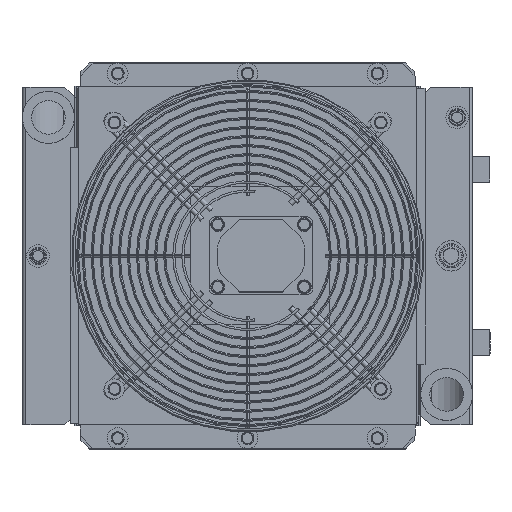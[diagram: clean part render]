
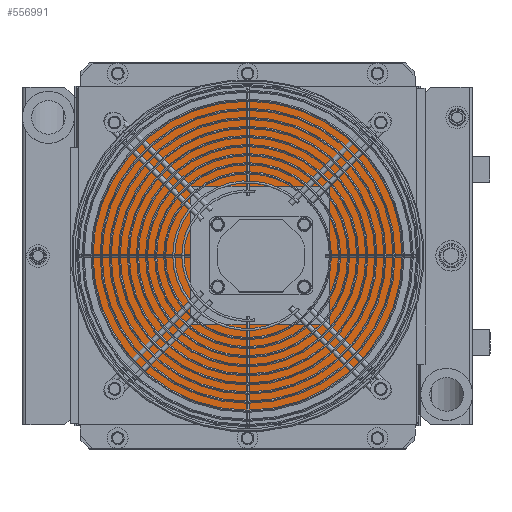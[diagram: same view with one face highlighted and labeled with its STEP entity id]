
A CAD part, top view. The second image highlights one B-rep face of the part: STEP entity #556991.
In plain terms, the highlighted planar face has unit normal (0, 0, 1).
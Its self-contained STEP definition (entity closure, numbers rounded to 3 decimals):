
#554661=CARTESIAN_POINT(' ',(194.247,385.89,47.));
#554662=VERTEX_POINT(' ',#554661);
#555016=CARTESIAN_POINT(' ',(-194.247,385.89,47.));
#555017=VERTEX_POINT(' ',#555016);
#555031=CARTESIAN_POINT(' ',(194.247,385.89,47.));
#555036=DIRECTION(' ',(-1.,0.,0.));
#555041=VECTOR(' ',#555036,1.);
#555046=LINE(' ',#555031,#555041);
#555051=EDGE_CURVE(' ',#554662,#555017,#555046,.T.);
#555186=CARTESIAN_POINT(' ',(194.247,385.89,47.));
#555191=DIRECTION(' ',(0.,-1.,0.));
#555196=VECTOR(' ',#555191,1.);
#555201=LINE(' ',#555186,#555196);
#555206=CARTESIAN_POINT(' ',(194.247,0.,47.));
#555207=VERTEX_POINT(' ',#555206);
#555211=EDGE_CURVE(' ',#554662,#555207,#555201,.T.);
#556776=CARTESIAN_POINT(' ',(-194.247,385.89,47.));
#556781=DIRECTION(' ',(0.,-1.,0.));
#556786=VECTOR(' ',#556781,1.);
#556791=LINE(' ',#556776,#556786);
#556796=CARTESIAN_POINT(' ',(-194.247,0.,47.));
#556797=VERTEX_POINT(' ',#556796);
#556801=EDGE_CURVE(' ',#555017,#556797,#556791,.T.);
#556911=CARTESIAN_POINT(' ',(-194.247,0.,47.));
#556916=DIRECTION(' ',(0.,0.,1.));
#556921=DIRECTION(' ',(1.,0.,0.));
#556926=AXIS2_PLACEMENT_3D(' ',#556911,#556916,#556921);
#556931=PLANE(' ',#556926);
#556936=ORIENTED_EDGE(' ',*,*,#555211,.F.);
#556941=ORIENTED_EDGE(' ',*,*,#555051,.T.);
#556946=ORIENTED_EDGE(' ',*,*,#556801,.T.);
#556951=CARTESIAN_POINT(' ',(194.247,0.,47.));
#556956=DIRECTION(' ',(-1.,0.,0.));
#556961=VECTOR(' ',#556956,1.);
#556966=LINE(' ',#556951,#556961);
#556971=EDGE_CURVE(' ',#555207,#556797,#556966,.T.);
#556976=ORIENTED_EDGE(' ',*,*,#556971,.F.);
#556981=EDGE_LOOP(' ',(#556936,#556941,#556946,#556976));
#556986=FACE_OUTER_BOUND(' ',#556981,.T.);
#556991=ADVANCED_FACE(' ',(#556986),#556931,.T.);
